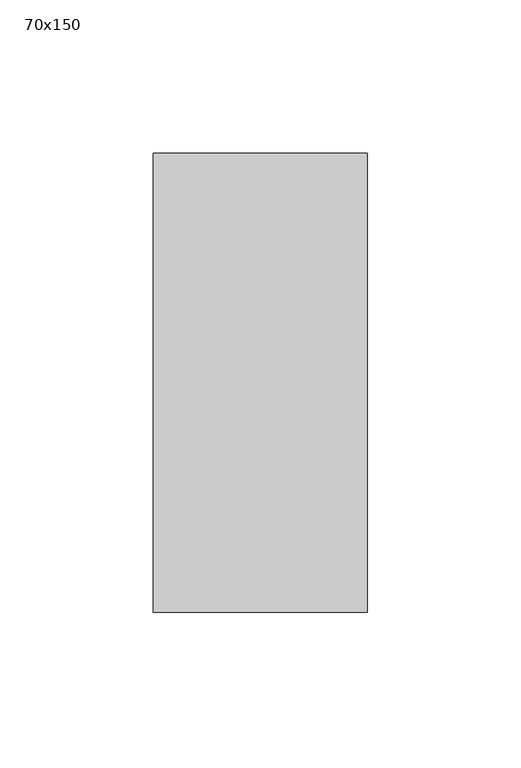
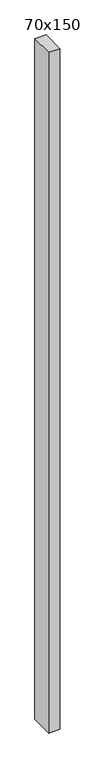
"""IFC4 building model written with IfcOpenShell, lengths in millimetres: member geometry, 長方形のマリオン : 70x150."""

from ifc_helpers import new_model, si_unit, frame, origin, place, context, project, spatial, polyline, outline, extrude, source, transform, mapped, element, save


def member_70x150_4d24a05e(model_context):
    return source(origin(), model_context, "Body", "SweptSolid", [
        extrude(outline(polyline([(35.0, 75.0), (35.0, -75.0), (-35.0, -75.0), (-35.0, 75.0), (35.0, 75.0)])), frame((0.0, 0.0, -4528.3333333), z_axis=(0.0, 0.0, 1.0), x_axis=(1.0, 0.0, 0.0)), (0.0, 0.0, 1.0), 4528.3333333),
    ])


if __name__ == "__main__":
    model = new_model("IFC4")
    model_context = context("Model", 3, world=origin())
    ifc_project = project(units=[si_unit("LENGTHUNIT", "METRE", prefix="MILLI")], contexts=[model_context])
    site = spatial("IfcSite", under=ifc_project)
    building = spatial("IfcBuilding", under=site)
    placement = place(None, origin())
    member_70x150_shape = member_70x150_4d24a05e(model_context)
    element("IfcMember", 1, ObjectType="長方形のマリオン : 70x150", at=placement, inside=building, context=model_context, shape_type="MappedRepresentation", body=[
        mapped(member_70x150_shape, transform((0.0, 0.0, 0.0), x_axis=(1.0, 0.0, 0.0), y_axis=(0.0, 1.0, 0.0), z_axis=(0.0, 0.0, 1.0))),
    ])
    save(model, "model.ifc")
